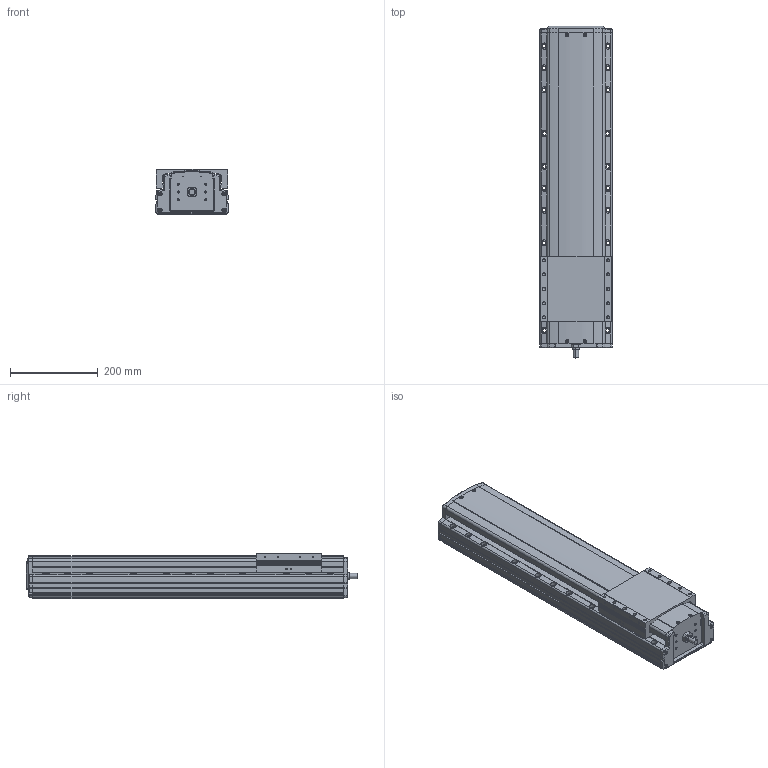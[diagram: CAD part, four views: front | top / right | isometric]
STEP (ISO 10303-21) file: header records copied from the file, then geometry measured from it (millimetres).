
FILE_DESCRIPTION(('STEP AP214'),'1');
FILE_NAME('Z:/Web/3D/PSA165/STP/PSA165-450 (3D)/PSA165ㅁㅁ-450.stp','2014-06-23T11:15:29',(' '),(' '),'Spatial InterOp 3D',' ',' ');
FILE_SCHEMA(('automotive_design'));
Length unit declared in the file: millimetre
Products named in the file (18): 스크루 : Round - M4.0 x 12.0; RRCV-PA160; BASE; 스크루 : Round - M4.0 x 10.0; RN15; Screw 20; SLIDE; FRCV
Bounding box: 165 x 758.8 x 104 mm (x, y, z)
Volume: 10138623.9 mm3; surface area: 685668.9 mm2
Topology: 18 solids, 18 shells, 1895 faces, 5145 edges, 3285 vertices
Faces by surface type: plane 1040, cylinder 613, cone 169, sphere 32, bspline 25, torus 16
Entity records: 77756 total; most frequent: CARTESIAN_POINT 14225, DIRECTION 10053, ORIENTED_EDGE 10038, EDGE_CURVE 5019, LINE 3399, VECTOR 3399, AXIS2_PLACEMENT_3D 3327, VERTEX_POINT 3285
